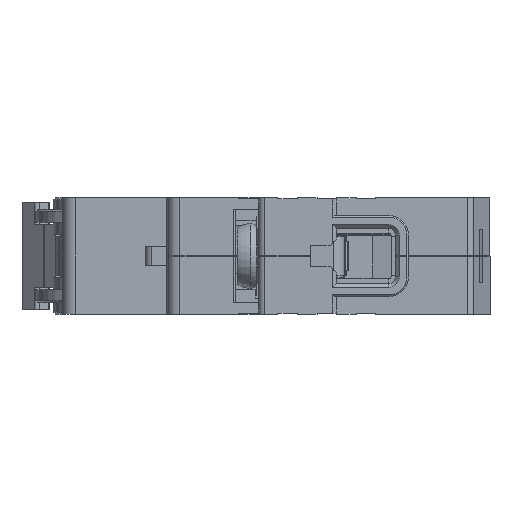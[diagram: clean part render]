
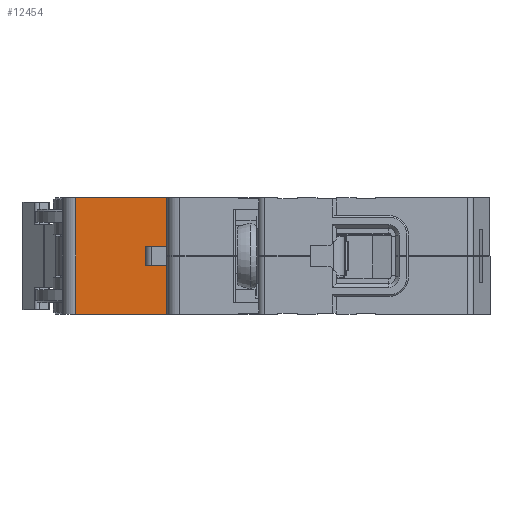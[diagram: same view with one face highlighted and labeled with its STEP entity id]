
A CAD part, left-side view. The second image highlights one B-rep face of the part: STEP entity #12454.
In plain terms, the highlighted planar face has unit normal (-1, 0, 0).
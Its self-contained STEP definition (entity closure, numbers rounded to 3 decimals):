
#251 = LINE ( 'NONE', #6256, #16530 ) ;
#1268 = DIRECTION ( 'NONE',  ( 0., 0., -1. ) ) ;
#1388 = CARTESIAN_POINT ( 'NONE',  ( -18.5, 44., 1.6 ) ) ;
#1563 = LINE ( 'NONE', #19916, #43368 ) ;
#2316 = DIRECTION ( 'NONE',  ( 0., -1., 0. ) ) ;
#2840 = LINE ( 'NONE', #25285, #33529 ) ;
#3344 = ORIENTED_EDGE ( 'NONE', *, *, #15562, .F. ) ;
#3920 = LINE ( 'NONE', #17905, #33343 ) ;
#5165 = CARTESIAN_POINT ( 'NONE',  ( -18.5, 44., 7.25 ) ) ;
#5434 = DIRECTION ( 'NONE',  ( 0., 0., -1. ) ) ;
#5763 = ORIENTED_EDGE ( 'NONE', *, *, #7934, .T. ) ;
#6256 = CARTESIAN_POINT ( 'NONE',  ( -18.5, -62.085, -0.15 ) ) ;
#6825 = ORIENTED_EDGE ( 'NONE', *, *, #15792, .F. ) ;
#6958 = CARTESIAN_POINT ( 'NONE',  ( -18.5, 44., 17.65 ) ) ;
#7420 = LINE ( 'NONE', #14993, #33037 ) ;
#7934 = EDGE_CURVE ( 'NONE', #51402, #25228, #2840, .T. ) ;
#8040 = DIRECTION ( 'NONE',  ( 0., 1., 0. ) ) ;
#8124 = EDGE_LOOP ( 'NONE', ( #16373, #3344, #15676, #23201, #39629, #5763, #6825, #43474 ) ) ;
#12454 = ADVANCED_FACE ( 'NONE', ( #46129 ), #51458, .F. ) ;
#13368 = VERTEX_POINT ( 'NONE', #22943 ) ;
#14133 = VERTEX_POINT ( 'NONE', #47809 ) ;
#14993 = CARTESIAN_POINT ( 'NONE',  ( -18.5, 44., 5.5 ) ) ;
#15562 = EDGE_CURVE ( 'NONE', #13368, #27590, #1563, .T. ) ;
#15676 = ORIENTED_EDGE ( 'NONE', *, *, #45048, .F. ) ;
#15792 = EDGE_CURVE ( 'NONE', #14133, #25228, #251, .T. ) ;
#16011 = VERTEX_POINT ( 'NONE', #6958 ) ;
#16373 = ORIENTED_EDGE ( 'NONE', *, *, #43225, .F. ) ;
#16388 = EDGE_CURVE ( 'NONE', #51402, #16011, #3920, .T. ) ;
#16530 = VECTOR ( 'NONE', #25873, 1000. ) ;
#17905 = CARTESIAN_POINT ( 'NONE',  ( -18.5, 58., 17.65 ) ) ;
#18678 = CARTESIAN_POINT ( 'NONE',  ( -18.5, 44., 7.25 ) ) ;
#19916 = CARTESIAN_POINT ( 'NONE',  ( -18.5, 47.3, 7.25 ) ) ;
#20009 = LINE ( 'NONE', #18678, #48775 ) ;
#22544 = DIRECTION ( 'NONE',  ( 0., -1., 0. ) ) ;
#22943 = CARTESIAN_POINT ( 'NONE',  ( -18.5, 47.3, 10.25 ) ) ;
#23201 = ORIENTED_EDGE ( 'NONE', *, *, #28845, .F. ) ;
#25228 = VERTEX_POINT ( 'NONE', #32209 ) ;
#25285 = CARTESIAN_POINT ( 'NONE',  ( -18.5, 58., 1.6 ) ) ;
#25873 = DIRECTION ( 'NONE',  ( 0., 1., 0. ) ) ;
#27590 = VERTEX_POINT ( 'NONE', #35898 ) ;
#28292 = CARTESIAN_POINT ( 'NONE',  ( -18.5, 60., 1.6 ) ) ;
#28845 = EDGE_CURVE ( 'NONE', #16011, #51817, #7420, .T. ) ;
#29702 = LINE ( 'NONE', #1388, #37809 ) ;
#32209 = CARTESIAN_POINT ( 'NONE',  ( -18.5, 58., -0.15 ) ) ;
#33037 = VECTOR ( 'NONE', #46925, 1000. ) ;
#33343 = VECTOR ( 'NONE', #2316, 1000. ) ;
#33351 = CARTESIAN_POINT ( 'NONE',  ( -18.5, 44., 10.25 ) ) ;
#33529 = VECTOR ( 'NONE', #1268, 1000. ) ;
#34338 = CARTESIAN_POINT ( 'NONE',  ( -18.5, 44., 10.25 ) ) ;
#35898 = CARTESIAN_POINT ( 'NONE',  ( -18.5, 47.3, 7.25 ) ) ;
#37323 = VECTOR ( 'NONE', #38515, 1000. ) ;
#37809 = VECTOR ( 'NONE', #5434, 1000. ) ;
#38515 = DIRECTION ( 'NONE',  ( 0., 1., 0. ) ) ;
#39416 = DIRECTION ( 'NONE',  ( 1., 0., 0. ) ) ;
#39629 = ORIENTED_EDGE ( 'NONE', *, *, #16388, .F. ) ;
#40355 = LINE ( 'NONE', #34338, #37323 ) ;
#43225 = EDGE_CURVE ( 'NONE', #27590, #50710, #20009, .T. ) ;
#43368 = VECTOR ( 'NONE', #48026, 1000. ) ;
#43474 = ORIENTED_EDGE ( 'NONE', *, *, #51324, .F. ) ;
#45048 = EDGE_CURVE ( 'NONE', #51817, #13368, #40355, .T. ) ;
#46129 = FACE_OUTER_BOUND ( 'NONE', #8124, .T. ) ;
#46925 = DIRECTION ( 'NONE',  ( 0., 0., -1. ) ) ;
#47809 = CARTESIAN_POINT ( 'NONE',  ( -18.5, 44., -0.15 ) ) ;
#48026 = DIRECTION ( 'NONE',  ( 0., 0., -1. ) ) ;
#48775 = VECTOR ( 'NONE', #22544, 1000. ) ;
#49919 = CARTESIAN_POINT ( 'NONE',  ( -18.5, 58., 17.65 ) ) ;
#50612 = AXIS2_PLACEMENT_3D ( 'NONE', #28292, #39416, #8040 ) ;
#50710 = VERTEX_POINT ( 'NONE', #5165 ) ;
#51324 = EDGE_CURVE ( 'NONE', #50710, #14133, #29702, .T. ) ;
#51402 = VERTEX_POINT ( 'NONE', #49919 ) ;
#51458 = PLANE ( 'NONE',  #50612 ) ;
#51817 = VERTEX_POINT ( 'NONE', #33351 ) ;
